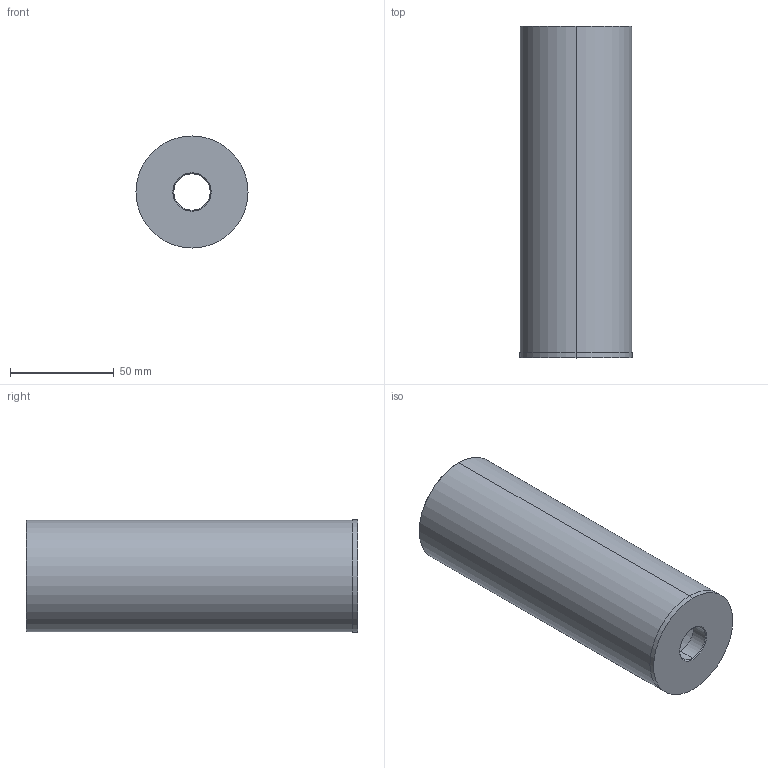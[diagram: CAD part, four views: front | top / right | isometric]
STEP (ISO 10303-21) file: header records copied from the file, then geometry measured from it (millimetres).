
FILE_DESCRIPTION (( 'STEP AP214' ), '1' );
FILE_NAME ('R05_54x160.STEP', '2020-03-20T00:02:34', ( '' ), ( '' ), 'SwSTEP 2.0', 'SolidWorks 2014', '' );
FILE_SCHEMA (( 'AUTOMOTIVE_DESIGN' ));
Length unit declared in the file: millimetre
Products named in the file (1): R05_54x160
Bounding box: 54.02 x 160 x 54.02 mm (x, y, z)
Volume: 149628 mm3; surface area: 51309.9 mm2
Topology: 1 solids, 1 shells, 19 faces, 38 edges, 22 vertices
Faces by surface type: cone 8, cylinder 8, plane 3
Entity records: 554 total; most frequent: DIRECTION 100, CARTESIAN_POINT 80, ORIENTED_EDGE 76, AXIS2_PLACEMENT_3D 42, EDGE_CURVE 38, CIRCLE 22, VERTEX_POINT 22, EDGE_LOOP 22
